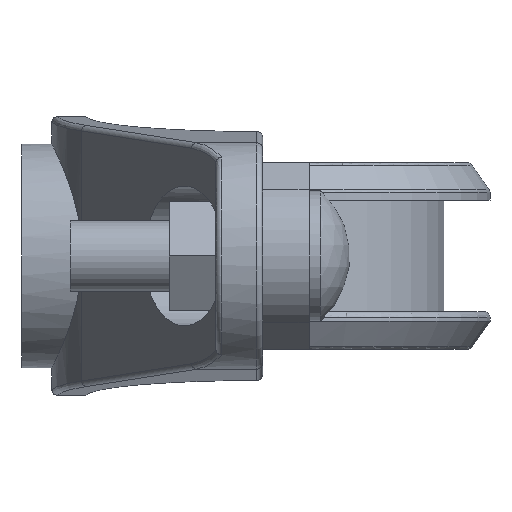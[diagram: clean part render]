
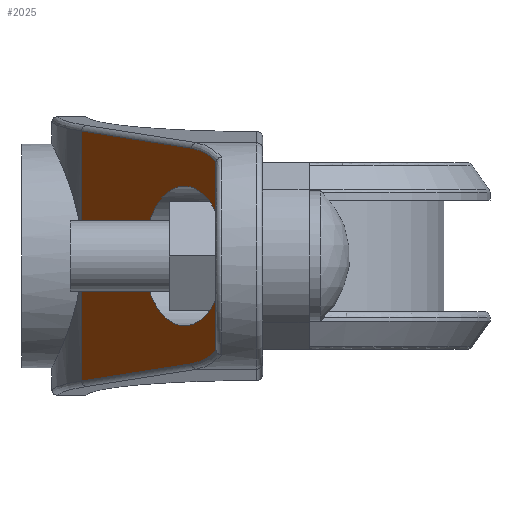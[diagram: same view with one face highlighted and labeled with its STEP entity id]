
A CAD part, left-side view. The second image highlights one B-rep face of the part: STEP entity #2025.
In plain terms, the highlighted planar face has unit normal (-0.5, 0.866, 0).
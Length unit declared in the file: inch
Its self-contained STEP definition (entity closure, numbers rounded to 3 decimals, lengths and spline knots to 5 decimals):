
#99=PLANE('',#2225);
#114=LINE('',#3103,#253);
#116=LINE('',#3175,#255);
#119=LINE('',#3287,#258);
#120=LINE('',#3290,#259);
#132=LINE('',#3341,#271);
#227=LINE('',#3853,#366);
#253=VECTOR('',#2332,0.3937);
#255=VECTOR('',#2348,0.3937);
#258=VECTOR('',#2375,0.3937);
#259=VECTOR('',#2378,0.3937);
#271=VECTOR('',#2392,0.3937);
#366=VECTOR('',#2719,0.3937);
#510=FACE_OUTER_BOUND('',#618,.T.);
#618=EDGE_LOOP('',(#1688,#1689,#1690,#1691,#1692,#1693,#1694,#1695,#1696,
#1697,#1698,#1699));
#653=B_SPLINE_CURVE_WITH_KNOTS('',3,(#3156,#3157,#3158,#3159,#3160,#3161),
 .UNSPECIFIED.,.F.,.F.,(4,2,4),(-0.67679,-0.67105,-0.65785),
 .UNSPECIFIED.);
#654=B_SPLINE_CURVE_WITH_KNOTS('',3,(#3164,#3165,#3166,#3167,#3168,#3169),
 .UNSPECIFIED.,.F.,.F.,(4,2,4),(-0.17081,-0.15761,-0.15187),
 .UNSPECIFIED.);
#763=ELLIPSE('',#2070,0.66973,0.58);
#772=ELLIPSE('',#2091,0.66973,0.58);
#784=ELLIPSE('',#2222,0.69282,0.6);
#786=ELLIPSE('',#2226,0.43301,0.375);
#788=VERTEX_POINT('',#2883);
#789=VERTEX_POINT('',#2884);
#806=VERTEX_POINT('',#3093);
#808=VERTEX_POINT('',#3099);
#811=VERTEX_POINT('',#3126);
#812=VERTEX_POINT('',#3155);
#813=VERTEX_POINT('',#3162);
#814=VERTEX_POINT('',#3171);
#824=VERTEX_POINT('',#3286);
#825=VERTEX_POINT('',#3288);
#837=VERTEX_POINT('',#3314);
#948=VERTEX_POINT('',#3821);
#975=EDGE_CURVE('',#788,#789,#763,.T.);
#1002=EDGE_CURVE('',#806,#808,#114,.T.);
#1004=EDGE_CURVE('',#808,#811,#772,.T.);
#1007=EDGE_CURVE('',#811,#812,#653,.T.);
#1009=EDGE_CURVE('',#813,#788,#654,.T.);
#1012=EDGE_CURVE('',#789,#814,#116,.T.);
#1027=EDGE_CURVE('',#812,#824,#119,.T.);
#1029=EDGE_CURVE('',#825,#813,#120,.T.);
#1042=EDGE_CURVE('',#806,#837,#132,.T.);
#1209=EDGE_CURVE('',#837,#948,#784,.T.);
#1211=EDGE_CURVE('',#825,#824,#786,.T.);
#1212=EDGE_CURVE('',#948,#814,#227,.T.);
#1688=ORIENTED_EDGE('',*,*,#975,.F.);
#1689=ORIENTED_EDGE('',*,*,#1009,.F.);
#1690=ORIENTED_EDGE('',*,*,#1029,.F.);
#1691=ORIENTED_EDGE('',*,*,#1211,.T.);
#1692=ORIENTED_EDGE('',*,*,#1027,.F.);
#1693=ORIENTED_EDGE('',*,*,#1007,.F.);
#1694=ORIENTED_EDGE('',*,*,#1004,.F.);
#1695=ORIENTED_EDGE('',*,*,#1002,.F.);
#1696=ORIENTED_EDGE('',*,*,#1042,.T.);
#1697=ORIENTED_EDGE('',*,*,#1209,.T.);
#1698=ORIENTED_EDGE('',*,*,#1212,.T.);
#1699=ORIENTED_EDGE('',*,*,#1012,.F.);
#2025=ADVANCED_FACE('',(#510),#99,.F.);
#2070=AXIS2_PLACEMENT_3D('',#2885,#2289,#2290);
#2091=AXIS2_PLACEMENT_3D('',#3127,#2335,#2336);
#2222=AXIS2_PLACEMENT_3D('',#3848,#2709,#2710);
#2225=AXIS2_PLACEMENT_3D('',#3851,#2715,#2716);
#2226=AXIS2_PLACEMENT_3D('',#3852,#2717,#2718);
#2289=DIRECTION('center_axis',(0.5,-0.866,0.));
#2290=DIRECTION('ref_axis',(-0.866,-0.5,0.));
#2332=DIRECTION('',(-0.863,-0.498,-0.078));
#2335=DIRECTION('center_axis',(0.5,-0.866,0.));
#2336=DIRECTION('ref_axis',(-0.866,-0.5,0.));
#2348=DIRECTION('',(0.863,0.498,-0.078));
#2375=DIRECTION('',(0.,0.,-1.));
#2378=DIRECTION('',(0.,0.,-1.));
#2392=DIRECTION('',(0.,0.,-1.));
#2709=DIRECTION('center_axis',(0.5,-0.866,0.));
#2710=DIRECTION('ref_axis',(-0.866,-0.5,0.));
#2715=DIRECTION('center_axis',(0.5,-0.866,0.));
#2716=DIRECTION('ref_axis',(0.866,0.5,0.));
#2717=DIRECTION('center_axis',(0.5,-0.866,0.));
#2718=DIRECTION('ref_axis',(-0.866,-0.5,0.));
#2719=DIRECTION('',(0.,0.,-1.));
#2883=CARTESIAN_POINT('',(-1.84466,0.24908,-0.50812));
#2884=CARTESIAN_POINT('',(-1.61739,0.38029,-0.57763));
#2885=CARTESIAN_POINT('Origin',(-1.565,0.41054,0.));
#3093=CARTESIAN_POINT('',(-0.595,0.97057,0.67035));
#3099=CARTESIAN_POINT('',(-1.61739,0.38029,0.57763));
#3103=CARTESIAN_POINT('',(-1.8253,0.26026,0.55877));
#3126=CARTESIAN_POINT('',(-1.84466,0.24908,0.50812));
#3127=CARTESIAN_POINT('Origin',(-1.565,0.41054,0.));
#3155=CARTESIAN_POINT('',(-1.84306,0.25,0.50051));
#3156=CARTESIAN_POINT('Ctrl Pts',(-1.84466,0.24908,0.50812));
#3157=CARTESIAN_POINT('Ctrl Pts',(-1.84431,0.24928,0.50741));
#3158=CARTESIAN_POINT('Ctrl Pts',(-1.84402,0.24945,0.50665));
#3159=CARTESIAN_POINT('Ctrl Pts',(-1.84332,0.24985,0.5043));
#3160=CARTESIAN_POINT('Ctrl Pts',(-1.84306,0.25,0.50225));
#3161=CARTESIAN_POINT('Ctrl Pts',(-1.84306,0.25,0.50051));
#3162=CARTESIAN_POINT('',(-1.84306,0.25,-0.50051));
#3164=CARTESIAN_POINT('Ctrl Pts',(-1.84306,0.25,-0.50051));
#3165=CARTESIAN_POINT('Ctrl Pts',(-1.84306,0.25,-0.50225));
#3166=CARTESIAN_POINT('Ctrl Pts',(-1.84332,0.24985,-0.5043));
#3167=CARTESIAN_POINT('Ctrl Pts',(-1.84402,0.24945,-0.50665));
#3168=CARTESIAN_POINT('Ctrl Pts',(-1.84431,0.24928,-0.50741));
#3169=CARTESIAN_POINT('Ctrl Pts',(-1.84466,0.24908,-0.50812));
#3171=CARTESIAN_POINT('',(-0.595,0.97057,-0.67035));
#3175=CARTESIAN_POINT('',(-1.24761,0.59378,-0.61117));
#3286=CARTESIAN_POINT('',(-1.84306,0.25,0.23396));
#3287=CARTESIAN_POINT('',(-1.84306,0.25,0.));
#3288=CARTESIAN_POINT('',(-1.84306,0.25,-0.23396));
#3290=CARTESIAN_POINT('',(-1.84306,0.25,0.));
#3314=CARTESIAN_POINT('',(-0.595,0.97057,0.0773));
#3341=CARTESIAN_POINT('',(-0.595,0.97057,0.));
#3821=CARTESIAN_POINT('',(-0.595,0.97057,-0.0773));
#3848=CARTESIAN_POINT('Origin',(0.,1.31409,
0.));
#3851=CARTESIAN_POINT('Origin',(-1.84306,0.25,0.));
#3852=CARTESIAN_POINT('Origin',(-1.55,0.4192,0.));
#3853=CARTESIAN_POINT('',(-0.595,0.97057,0.));
